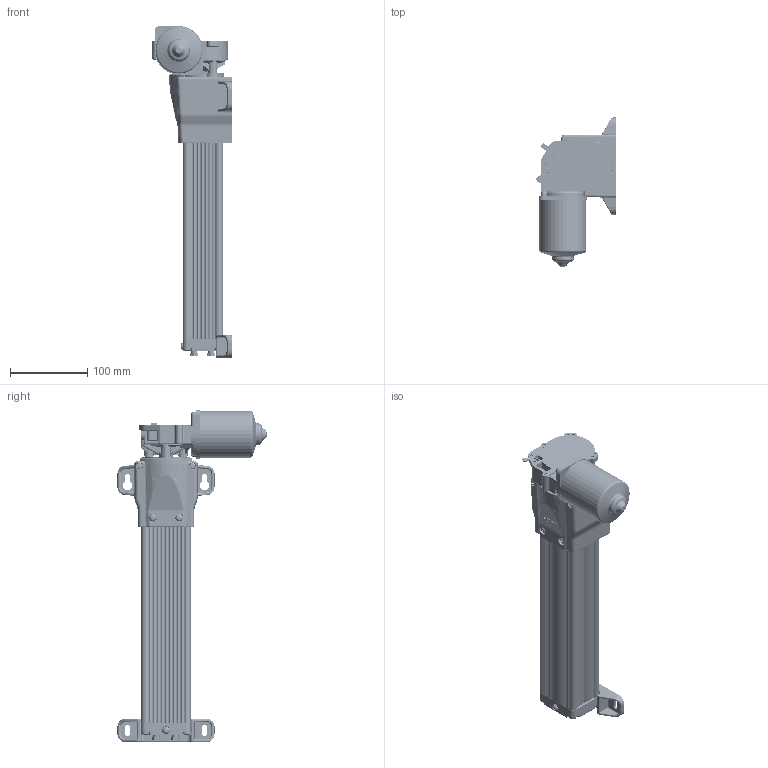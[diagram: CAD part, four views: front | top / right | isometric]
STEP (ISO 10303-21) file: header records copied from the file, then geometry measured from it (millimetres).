
FILE_DESCRIPTION (( 'STEP AP203' ), '1' );
FILE_NAME ('QXY09 Motor.STEP', '2014-01-22T18:49:15', ( '' ), ( '' ), 'SwSTEP 2.0', 'SolidWorks 2013', '' );
FILE_SCHEMA (( 'CONFIG_CONTROL_DESIGN' ));
Length unit declared in the file: millimetre
Products named in the file (1): QXY09 Motor
Bounding box: 102.7 x 193.55 x 430.97 mm (x, y, z)
Volume: 806603.9 mm3; surface area: 318090.2 mm2
Topology: 28 solids, 28 shells, 4939 faces, 11979 edges, 7174 vertices
Faces by surface type: cylinder 1559, plane 1104, torus 904, cone 683, bspline 616, sphere 73
Entity records: 164104 total; most frequent: CARTESIAN_POINT 51563, DIRECTION 24229, ORIENTED_EDGE 23768, EDGE_CURVE 11884, AXIS2_PLACEMENT_3D 9949, VERTEX_POINT 7170, CIRCLE 5625, EDGE_LOOP 5194
